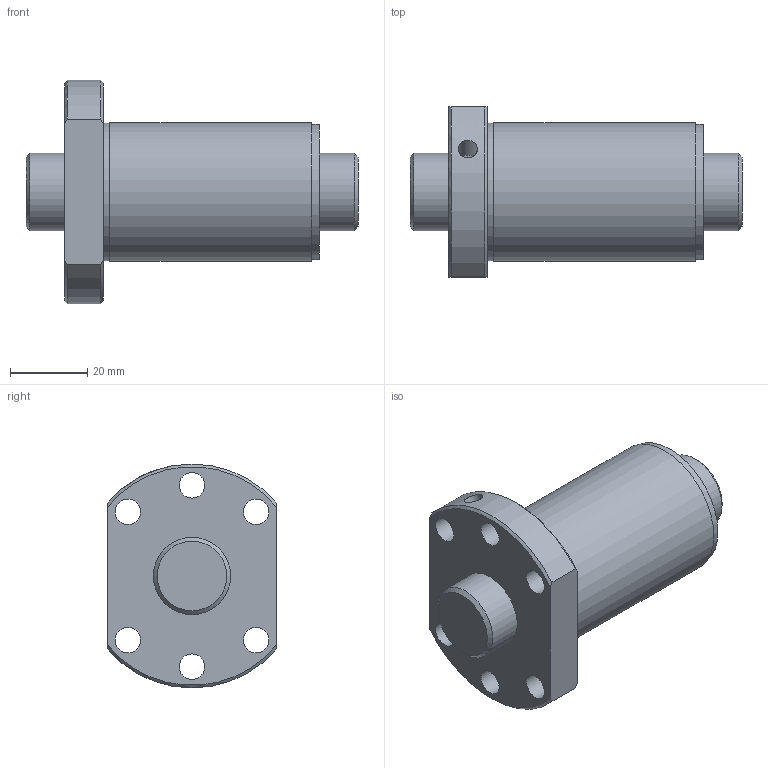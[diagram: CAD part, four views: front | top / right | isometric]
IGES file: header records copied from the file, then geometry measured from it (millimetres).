
Start section: Data from Parasolid IGES Translator 26.0.171, Copyright(c) 2006 Siemens PLM Software. All Rights Reserved.
Global section: file name: SDA2020V-6G0+86LC0(0G000).igs; native system: By Siemens PLM Incorporated; preprocessor: XPlus GENERIC/IGES 26.0.171; author: Noname; organization: Noname; date: 20240528.113015; units: millimetre
Bounding box: 86 x 44 x 58 mm (x, y, z)
Surface area: 23146.2 mm2 (no closed solid volume)
Topology: 0 solids, 0 shells, 31 faces, 156 edges, 140 vertices
Faces by surface type: revolution 22, extrusion 9
